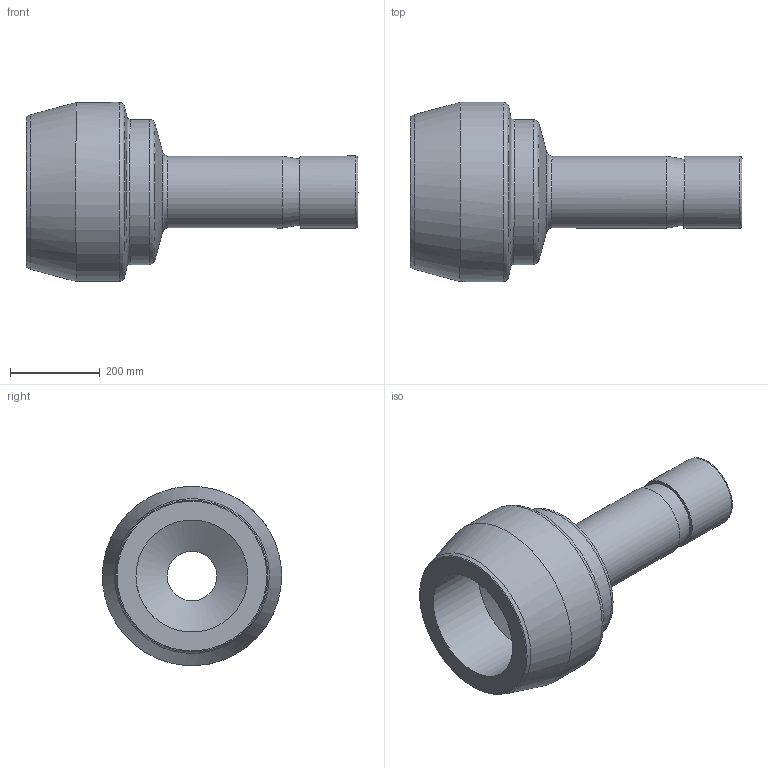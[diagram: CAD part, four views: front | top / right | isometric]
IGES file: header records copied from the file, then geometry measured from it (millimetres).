
Global section: file name: SRPC-8-4; native system: Autodesk Inventor 2016; preprocessor: unknown; author: DESIGNPC2; date: 20151219.133608; units: millimetre
Bounding box: 741.94 x 400.44 x 400.19 mm (x, y, z)
Volume: 27442357.3 mm3; surface area: 1053173 mm2
Topology: 1 solids, 1 shells, 21 faces, 75 edges, 54 vertices
Faces by surface type: bspline 21
